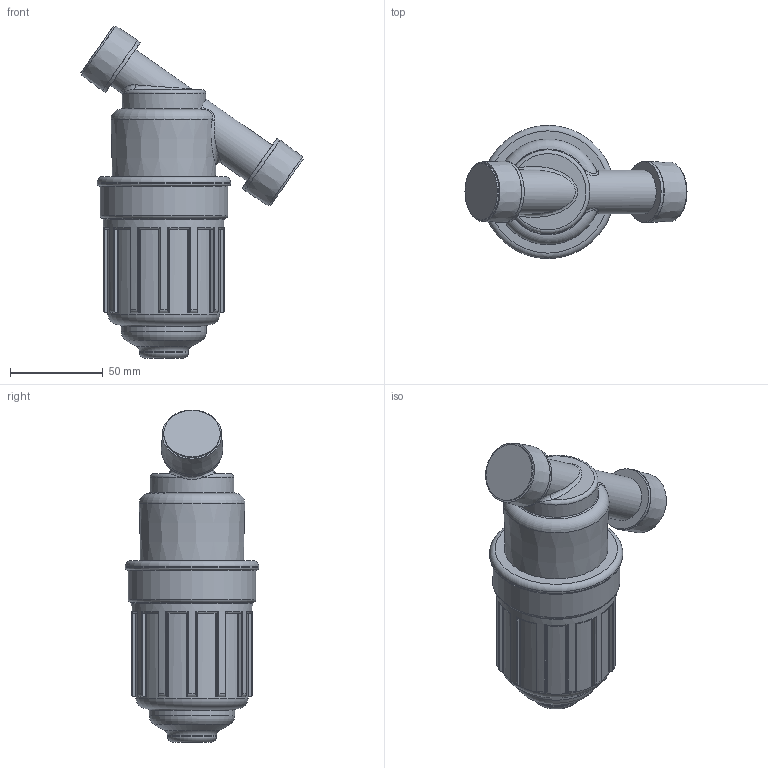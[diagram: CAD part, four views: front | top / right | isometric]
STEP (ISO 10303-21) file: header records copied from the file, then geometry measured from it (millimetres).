
FILE_DESCRIPTION( ( 'Unknown' ), '1' );
FILE_NAME( 'M:/Users/Roy/Dummy/1in Tag Line.stp', 'Unknown', ( 'Unknown' ), ( 'Unknown' ), 'PSStep 10.0', 'Unknown', ' ' );
FILE_SCHEMA( ( 'automotive_design' ) );
Length unit declared in the file: millimetre
Products named in the file (1): 1
Bounding box: 119.89 x 72 x 179.29 mm (x, y, z)
Volume: 437867.9 mm3; surface area: 42456.5 mm2
Topology: 1 solids, 1 shells, 170 faces, 464 edges, 305 vertices
Faces by surface type: cylinder 61, plane 61, torus 37, bspline 7, cone 3, sphere 1
Full cylindrical faces by diameter (mm): 23.6 x2, 26.44 x1, 30.511 x2, 32.82 x2, 45.2 x1, 46 x1, 60.5 x1, 65.373 x1, 69 x1, 72 x1
Entity records: 10622 total; most frequent: CARTESIAN_POINT 5242, ORIENTED_EDGE 848, DIRECTION 792, EDGE_CURVE 424, AXIS2_PLACEMENT_3D 324, VERTEX_POINT 292, EDGE_LOOP 206, FACE_OUTER_BOUND 194
